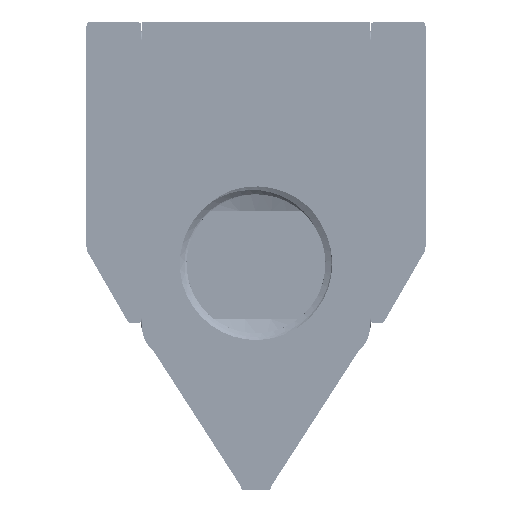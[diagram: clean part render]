
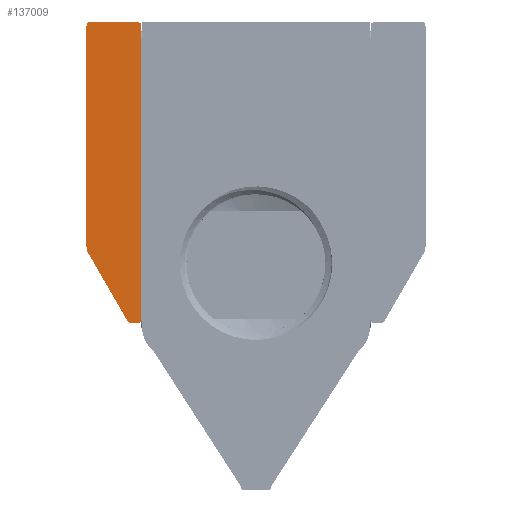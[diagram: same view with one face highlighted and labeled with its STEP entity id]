
A CAD part, left-side view. The second image highlights one B-rep face of the part: STEP entity #137009.
In plain terms, the highlighted planar face has unit normal (-1, 0, 0).
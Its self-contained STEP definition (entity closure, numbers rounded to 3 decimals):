
#5159 = EDGE_CURVE ( 'NONE', #136839, #17073, #75792, .T. ) ;
#14375 = DIRECTION ( 'NONE',  ( 0., 0., -1. ) ) ;
#14837 = EDGE_CURVE ( 'NONE', #61241, #131960, #182843, .T. ) ;
#16426 = EDGE_CURVE ( 'NONE', #17073, #186586, #185681, .T. ) ;
#16889 = FACE_OUTER_BOUND ( 'NONE', #129190, .T. ) ;
#17073 = VERTEX_POINT ( 'NONE', #39705 ) ;
#17966 = EDGE_CURVE ( 'NONE', #186586, #29821, #169594, .T. ) ;
#21115 = ORIENTED_EDGE ( 'NONE', *, *, #107362, .T. ) ;
#23011 = DIRECTION ( 'NONE',  ( -1., 0., 0. ) ) ;
#25024 = CARTESIAN_POINT ( 'NONE',  ( -165., 18.58, -33. ) ) ;
#27178 = EDGE_CURVE ( 'NONE', #124503, #72014, #178955, .T. ) ;
#27625 = AXIS2_PLACEMENT_3D ( 'NONE', #174817, #146353, #118828 ) ;
#29112 = DIRECTION ( 'NONE',  ( 0., 0., -1. ) ) ;
#29821 = VERTEX_POINT ( 'NONE', #160437 ) ;
#36660 = CARTESIAN_POINT ( 'NONE',  ( -165., 18.18, 0. ) ) ;
#38406 = DIRECTION ( 'NONE',  ( 0., 1., 0. ) ) ;
#39705 = CARTESIAN_POINT ( 'NONE',  ( -165., 12.58, -32.75 ) ) ;
#39973 = CARTESIAN_POINT ( 'NONE',  ( -165., 12.83, -32.75 ) ) ;
#40465 = EDGE_CURVE ( 'NONE', #85693, #124503, #154908, .T. ) ;
#41500 = DIRECTION ( 'NONE',  ( 0., 0., 1. ) ) ;
#44199 = CARTESIAN_POINT ( 'NONE',  ( -165., 18.18, -0.4 ) ) ;
#48591 = CARTESIAN_POINT ( 'NONE',  ( -165., 12.98, -0.4 ) ) ;
#49195 = CARTESIAN_POINT ( 'NONE',  ( -165., 18.419, -25.278 ) ) ;
#50028 = VECTOR ( 'NONE', #41500, 1000. ) ;
#54886 = CARTESIAN_POINT ( 'NONE',  ( -165., 12.83, -33. ) ) ;
#55800 = CARTESIAN_POINT ( 'NONE',  ( -165., 12.58, -33. ) ) ;
#55848 = LINE ( 'NONE', #70034, #163174 ) ;
#59845 = ORIENTED_EDGE ( 'NONE', *, *, #14837, .T. ) ;
#61184 = DIRECTION ( 'NONE',  ( -1., 0., 0. ) ) ;
#61241 = VERTEX_POINT ( 'NONE', #82058 ) ;
#62121 = DIRECTION ( 'NONE',  ( 0., 0., -1. ) ) ;
#62430 = ORIENTED_EDGE ( 'NONE', *, *, #70386, .T. ) ;
#66697 = AXIS2_PLACEMENT_3D ( 'NONE', #39973, #71243, #14375 ) ;
#70034 = CARTESIAN_POINT ( 'NONE',  ( -165., 12.58, -33. ) ) ;
#70386 = EDGE_CURVE ( 'NONE', #72014, #61241, #87405, .T. ) ;
#71243 = DIRECTION ( 'NONE',  ( -1., 0., 0. ) ) ;
#72014 = VERTEX_POINT ( 'NONE', #49195 ) ;
#72663 = ORIENTED_EDGE ( 'NONE', *, *, #164376, .T. ) ;
#73676 = EDGE_CURVE ( 'NONE', #29821, #140310, #111374, .T. ) ;
#74461 = ORIENTED_EDGE ( 'NONE', *, *, #17966, .T. ) ;
#75792 = CIRCLE ( 'NONE', #66697, 0.25 ) ;
#78248 = VECTOR ( 'NONE', #145308, 1000. ) ;
#82058 = CARTESIAN_POINT ( 'NONE',  ( -165., 14.077, -32.8 ) ) ;
#82802 = DIRECTION ( 'NONE',  ( 0., 0., -1. ) ) ;
#84533 = CARTESIAN_POINT ( 'NONE',  ( -165., 18.58, -24.678 ) ) ;
#85693 = VERTEX_POINT ( 'NONE', #85759 ) ;
#85759 = CARTESIAN_POINT ( 'NONE',  ( -165., 18.58, -0.4 ) ) ;
#86970 = DIRECTION ( 'NONE',  ( 0., 0., -1. ) ) ;
#87405 = LINE ( 'NONE', #132920, #78248 ) ;
#94932 = AXIS2_PLACEMENT_3D ( 'NONE', #145599, #61184, #62121 ) ;
#98079 = CARTESIAN_POINT ( 'NONE',  ( -165., 12.58, 0. ) ) ;
#106403 = DIRECTION ( 'NONE',  ( 0., 0., -1. ) ) ;
#107362 = EDGE_CURVE ( 'NONE', #140310, #85693, #147069, .T. ) ;
#111374 = LINE ( 'NONE', #98079, #143132 ) ;
#112610 = ORIENTED_EDGE ( 'NONE', *, *, #27178, .T. ) ;
#113614 = DIRECTION ( 'NONE',  ( 0., -1., 0. ) ) ;
#118828 = DIRECTION ( 'NONE',  ( 0., 0., -1. ) ) ;
#124503 = VERTEX_POINT ( 'NONE', #84533 ) ;
#128895 = AXIS2_PLACEMENT_3D ( 'NONE', #44199, #147553, #29112 ) ;
#129190 = EDGE_LOOP ( 'NONE', ( #178574, #112610, #62430, #59845, #72663, #174986, #167982, #74461, #172952, #21115 ) ) ;
#131960 = VERTEX_POINT ( 'NONE', #179901 ) ;
#132920 = CARTESIAN_POINT ( 'NONE',  ( -165., 13.961, -33. ) ) ;
#136839 = VERTEX_POINT ( 'NONE', #54886 ) ;
#137009 = ADVANCED_FACE ( 'NONE', ( #16889 ), #158165, .F. ) ;
#140310 = VERTEX_POINT ( 'NONE', #36660 ) ;
#141427 = VECTOR ( 'NONE', #82802, 1000. ) ;
#143132 = VECTOR ( 'NONE', #38406, 1000. ) ;
#144849 = DIRECTION ( 'NONE',  ( 1., 0., 0. ) ) ;
#145308 = DIRECTION ( 'NONE',  ( 0., -0.5, -0.866 ) ) ;
#145599 = CARTESIAN_POINT ( 'NONE',  ( -165., 13.73, -32.6 ) ) ;
#146353 = DIRECTION ( 'NONE',  ( -1., 0., 0. ) ) ;
#146747 = CARTESIAN_POINT ( 'NONE',  ( -165., 12.58, -33. ) ) ;
#147069 = CIRCLE ( 'NONE', #128895, 0.4 ) ;
#147553 = DIRECTION ( 'NONE',  ( -1., 0., 0. ) ) ;
#150339 = CARTESIAN_POINT ( 'NONE',  ( -165., 12.58, -0.4 ) ) ;
#154908 = LINE ( 'NONE', #25024, #141427 ) ;
#158165 = PLANE ( 'NONE',  #165467 ) ;
#160437 = CARTESIAN_POINT ( 'NONE',  ( -165., 12.98, 0. ) ) ;
#163174 = VECTOR ( 'NONE', #113614, 1000. ) ;
#164376 = EDGE_CURVE ( 'NONE', #131960, #136839, #55848, .T. ) ;
#165467 = AXIS2_PLACEMENT_3D ( 'NONE', #146747, #144849, #86970 ) ;
#167982 = ORIENTED_EDGE ( 'NONE', *, *, #16426, .T. ) ;
#169594 = CIRCLE ( 'NONE', #181939, 0.4 ) ;
#172952 = ORIENTED_EDGE ( 'NONE', *, *, #73676, .T. ) ;
#174817 = CARTESIAN_POINT ( 'NONE',  ( -165., 17.38, -24.678 ) ) ;
#174986 = ORIENTED_EDGE ( 'NONE', *, *, #5159, .T. ) ;
#178574 = ORIENTED_EDGE ( 'NONE', *, *, #40465, .T. ) ;
#178955 = CIRCLE ( 'NONE', #27625, 1.2 ) ;
#179901 = CARTESIAN_POINT ( 'NONE',  ( -165., 13.73, -33. ) ) ;
#181939 = AXIS2_PLACEMENT_3D ( 'NONE', #48591, #23011, #106403 ) ;
#182843 = CIRCLE ( 'NONE', #94932, 0.4 ) ;
#185681 = LINE ( 'NONE', #55800, #50028 ) ;
#186586 = VERTEX_POINT ( 'NONE', #150339 ) ;
